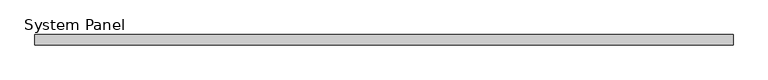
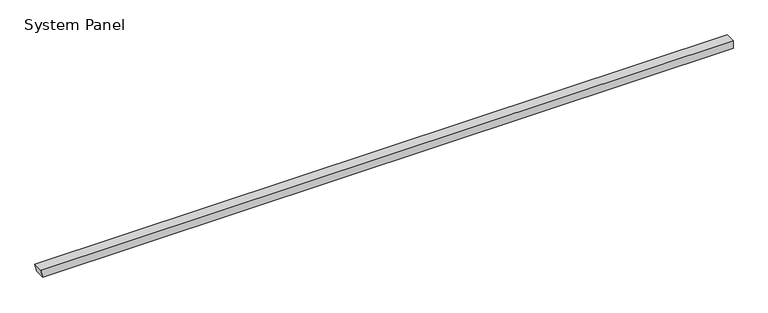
"""IFC4 building model written with IfcOpenShell, lengths in millimetres: plate geometry, System Panel : Equitilt_FlameGuard_100mm_Plain_Surfmist."""

from ifc_helpers import new_model, si_unit, frame, origin, place, context, project, spatial, polyline, outline, extrude, source, transform, mapped, element, save


def system_panel_09f4cd06(model_context):
    return source(origin(), model_context, "Body", "SweptSolid", [
        extrude(outline(polyline([(0.0, -3377.6149856), (0.0, 3395.0), (79.9704237, 3395.0), (79.9704237, -3395.0), (0.0, -3377.6149856)])), frame((0.0, -100.0, 0.0), z_axis=(0.0, 1.0, 0.0), x_axis=(0.0, 0.0, 1.0)), (0.0, 0.0, 1.0), 100.0),
    ])


if __name__ == "__main__":
    model = new_model("IFC4")
    model_context = context("Model", 3, world=origin())
    ifc_project = project(units=[si_unit("LENGTHUNIT", "METRE", prefix="MILLI")], contexts=[model_context])
    site = spatial("IfcSite", under=ifc_project)
    building = spatial("IfcBuilding", under=site)
    placement = place(None, origin())
    system_panel_shape = system_panel_09f4cd06(model_context)
    element("IfcPlate", 1, ObjectType="System Panel : Equitilt_FlameGuard_100mm_Plain_Surfmist", at=placement, inside=building, context=model_context, shape_type="MappedRepresentation", body=[
        mapped(system_panel_shape, transform((0.0, 0.0, 0.0), x_axis=(1.0, 0.0, 0.0), y_axis=(0.0, 1.0, 0.0), z_axis=(0.0, 0.0, 1.0))),
    ])
    save(model, "model.ifc")
